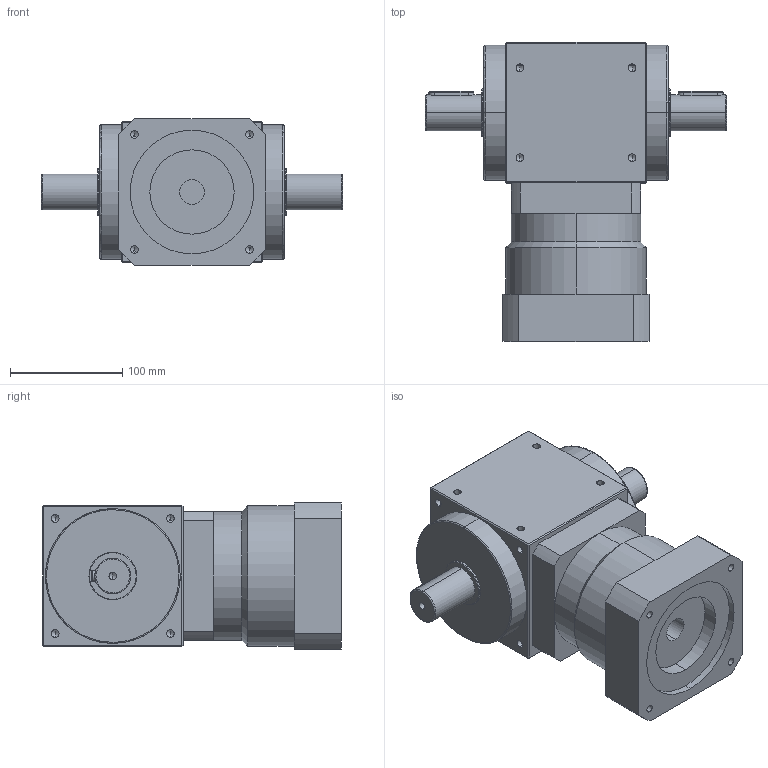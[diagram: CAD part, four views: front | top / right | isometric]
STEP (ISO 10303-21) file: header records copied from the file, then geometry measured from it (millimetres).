
FILE_DESCRIPTION (( 'STEP AP214' ), '1' );
FILE_NAME ('RXW125A-L1-2P--22-110-145-m8.STEP', '2020-12-07T02:19:12', ( '微软用户' ), ( '微软中国' ), 'SwSTEP 2.0', 'SolidWorks 2014', '' );
FILE_SCHEMA (( 'AUTOMOTIVE_DESIGN' ));
Length unit declared in the file: millimetre
Products named in the file (2): RXW125A-L1-2P--22-110-145-m8
Bounding box: 268 x 266 x 130 mm (x, y, z)
Volume: 4210531 mm3; surface area: 208446.9 mm2
Topology: 1 solids, 1 shells, 215 faces, 510 edges, 276 vertices
Faces by surface type: cylinder 86, cone 62, plane 59, bspline 8
Entity records: 8432 total; most frequent: CARTESIAN_POINT 1323, DIRECTION 1034, ORIENTED_EDGE 916, EDGE_CURVE 458, AXIS2_PLACEMENT_3D 395, VERTEX_POINT 276, EDGE_LOOP 254, LINE 244
